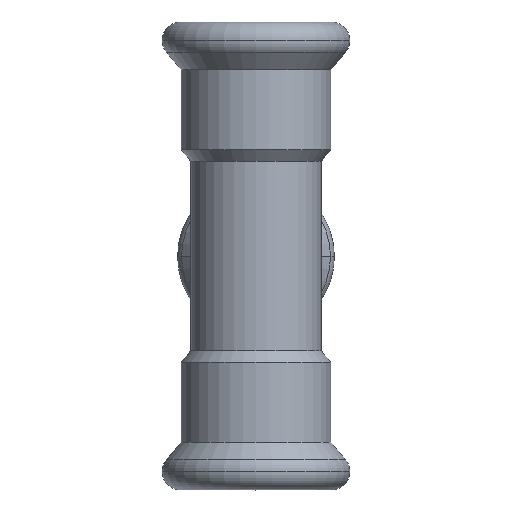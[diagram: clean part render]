
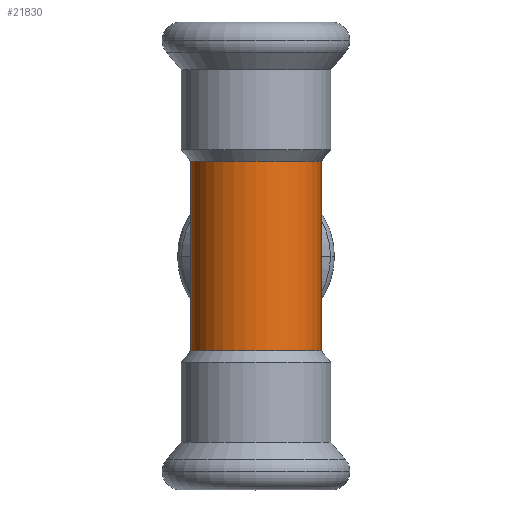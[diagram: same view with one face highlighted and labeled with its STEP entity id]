
A CAD part, top view. The second image highlights one B-rep face of the part: STEP entity #21830.
In plain terms, the highlighted cylindrical face has radius 11 mm (diameter 22 mm), a partial arc.
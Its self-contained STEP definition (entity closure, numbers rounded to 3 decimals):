
#2920=CARTESIAN_POINT('',(-202.976,17.621,
16.));
#2930=DIRECTION('',(0.,0.,1.));
#2940=DIRECTION('',(-1.,0.,0.));
#2950=AXIS2_PLACEMENT_3D('',#2920,#2930,#2940);
#2960=CYLINDRICAL_SURFACE('',#2950,11.);
#12460=CARTESIAN_POINT('',(-191.976,17.621,
16.));
#12470=DIRECTION('',(0.,0.,1.));
#12480=VECTOR('',#12470,1.);
#12490=LINE('',#12460,#12480);
#12500=CARTESIAN_POINT('',(-191.976,17.621,
-16.));
#12510=VERTEX_POINT('',#12500);
#12520=CARTESIAN_POINT('',(-191.976,17.621,
16.));
#12530=VERTEX_POINT('',#12520);
#12540=EDGE_CURVE('',#12510,#12530,#12490,.T.);
#12560=CARTESIAN_POINT('',(-202.976,17.621,
16.));
#12570=DIRECTION('',(0.,0.,1.));
#12580=DIRECTION('',(1.,0.,0.));
#12590=AXIS2_PLACEMENT_3D('',#12560,#12570,#12580);
#12600=CIRCLE('',#12590,11.);
#12610=CARTESIAN_POINT('',(-213.976,17.621,
16.));
#12620=VERTEX_POINT('',#12610);
#12650=CARTESIAN_POINT('',(-213.976,17.621,
16.));
#12660=DIRECTION('',(0.,0.,1.));
#12670=VECTOR('',#12660,1.);
#12680=LINE('',#12650,#12670);
#12690=CARTESIAN_POINT('',(-213.976,17.621,
-16.));
#12700=VERTEX_POINT('',#12690);
#12710=EDGE_CURVE('',#12700,#12620,#12680,.T.);
#12730=CARTESIAN_POINT('',(-202.976,17.621,
-16.));
#12740=DIRECTION('',(0.,0.,1.));
#12750=DIRECTION('',(-1.,0.,0.));
#12760=AXIS2_PLACEMENT_3D('',#12730,#12740,#12750);
#12770=CIRCLE('',#12760,11.);
#21750=EDGE_CURVE('',#12620,#12530,#12600,.T.);
#21760=ORIENTED_EDGE('',*,*,#21750,.F.);
#21770=ORIENTED_EDGE('',*,*,#12540,.T.);
#21780=EDGE_CURVE('',#12700,#12510,#12770,.T.);
#21790=ORIENTED_EDGE('',*,*,#21780,.T.);
#21800=ORIENTED_EDGE('',*,*,#12710,.F.);
#21810=EDGE_LOOP('',(#21800,#21790,#21770,#21760));
#21820=FACE_OUTER_BOUND('',#21810,.T.);
#21830=ADVANCED_FACE('',(#21820),#2960,.T.);
